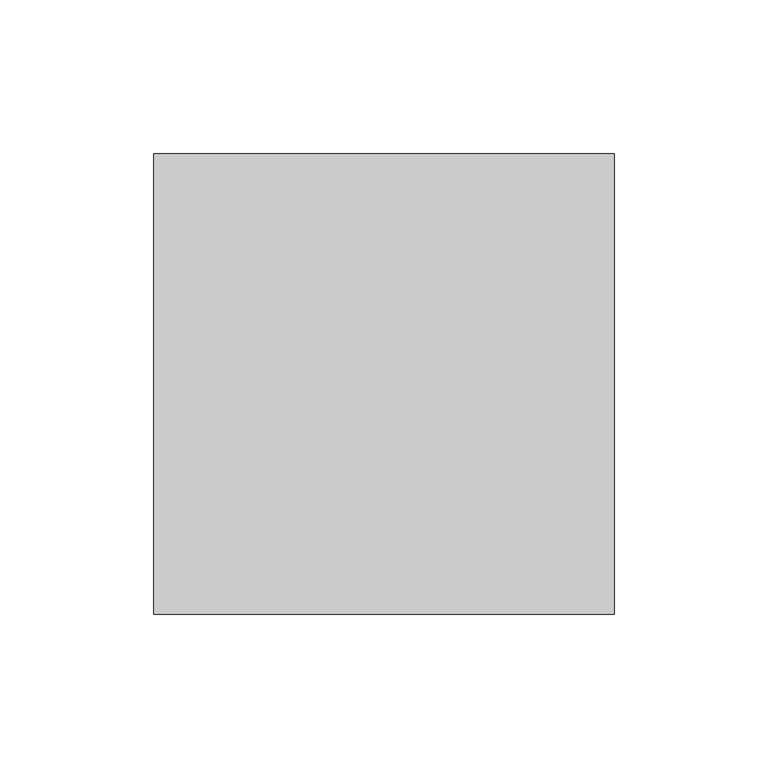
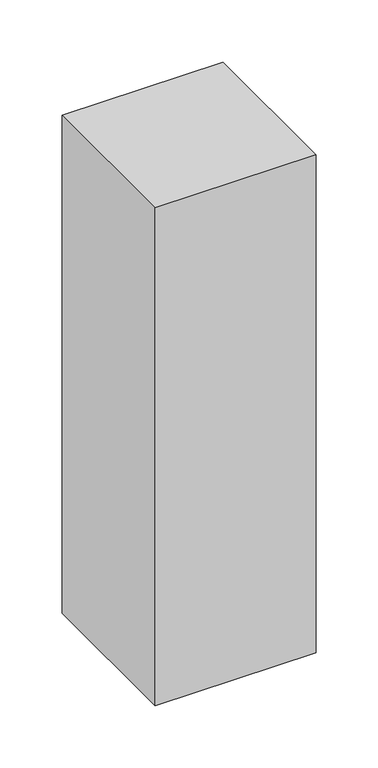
"""IFC4 building model written with IfcOpenShell, lengths in millimetres: column geometry, Poteau béton - Carré : 150 mm x 150 mm."""

from ifc_helpers import new_model, si_unit, frame, origin, place, context, project, spatial, polyline, outline, extrude, source, transform, mapped, element, save


def column_6ce5961b(model_context):
    return source(origin(), model_context, "Body", "SweptSolid", [
        extrude(outline(polyline([(75.0, 75.0), (75.0, -75.0), (-75.0, -75.0), (-75.0, 75.0), (75.0, 75.0)])), frame((0.0, 0.0, -490.0), z_axis=(0.0, 0.0, 1.0), x_axis=(1.0, 0.0, 0.0)), (0.0, 0.0, 1.0), 490.0),
    ])


if __name__ == "__main__":
    model = new_model("IFC4")
    model_context = context("Model", 3, world=origin())
    ifc_project = project(units=[si_unit("LENGTHUNIT", "METRE", prefix="MILLI")], contexts=[model_context])
    site = spatial("IfcSite", under=ifc_project)
    building = spatial("IfcBuilding", under=site)
    placement = place(None, origin())
    column_shape = column_6ce5961b(model_context)
    element("IfcColumn", 1, ObjectType="Poteau béton - Carré : 150 mm x 150 mm", at=placement, inside=building, context=model_context, shape_type="MappedRepresentation", body=[
        mapped(column_shape, transform((0.0, 0.0, 0.0), x_axis=(1.0, 0.0, 0.0), y_axis=(0.0, 1.0, 0.0), z_axis=(0.0, 0.0, 1.0))),
    ])
    save(model, "model.ifc")
